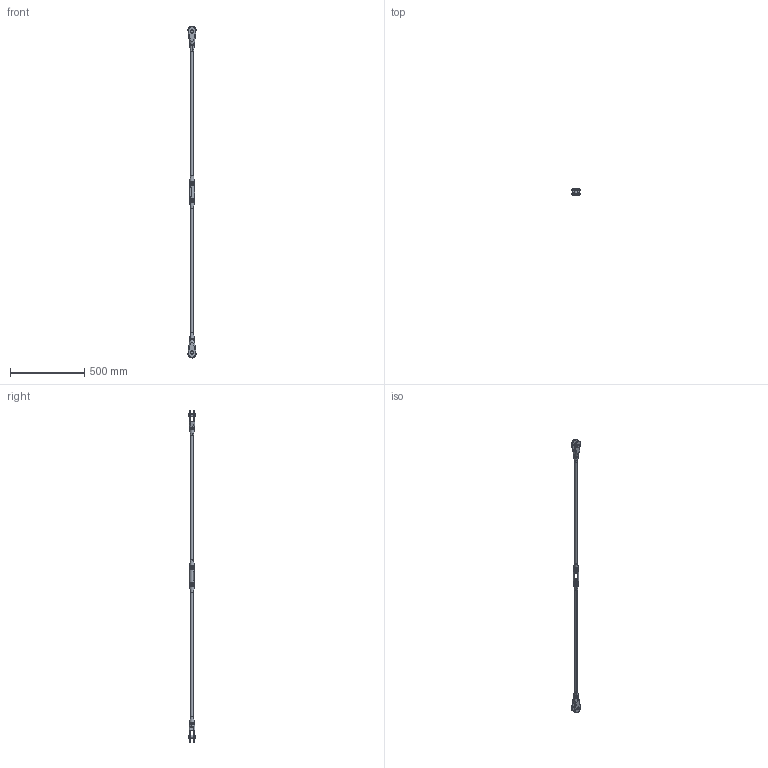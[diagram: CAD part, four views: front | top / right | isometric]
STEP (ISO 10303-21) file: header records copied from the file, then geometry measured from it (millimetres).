
FILE_DESCRIPTION (( 'STEP AP203' ), '1' );
FILE_NAME ('M20 G+AB+K.STEP', '2018-02-14T10:07:49', ( 'install' ), ( 'Hewlett-Packard Company' ), 'SwSTEP 2.0', 'SolidWorks 2017', '' );
FILE_SCHEMA (( 'CONFIG_CONTROL_DESIGN' ));
Length unit declared in the file: millimetre
Products named in the file (6): Abdeckhülse_generisch_M20; Kreuzmuffe_M20; Zugstab_M20; Gabelkopf Kunde_M20; Bolzen SicherungsringVarB_generisch_M20; M20 G+AB+K
Assembly tree (11 placements, depth 2):
  M20 G+AB+K
    Gabelkopf Kunde_M20  x2
    Abdeckhülse_generisch_M20  x4
    Kreuzmuffe_M20
    Zugstab_M20  x2
    Bolzen SicherungsringVarB_generisch_M20  x2
Bounding box: 54.97 x 49 x 2232.5 mm (x, y, z)
Volume: 954785.3 mm3; surface area: 241875.2 mm2
Topology: 11 solids, 11 shells, 343 faces, 854 edges, 523 vertices
Faces by surface type: cylinder 176, plane 71, cone 54, torus 26, bspline 16
Entity records: 10990 total; most frequent: CARTESIAN_POINT 6156, ORIENTED_EDGE 898, DIRECTION 816, EDGE_CURVE 449, AXIS2_PLACEMENT_3D 337, VERTEX_POINT 275, EDGE_LOOP 200, FACE_OUTER_BOUND 179
